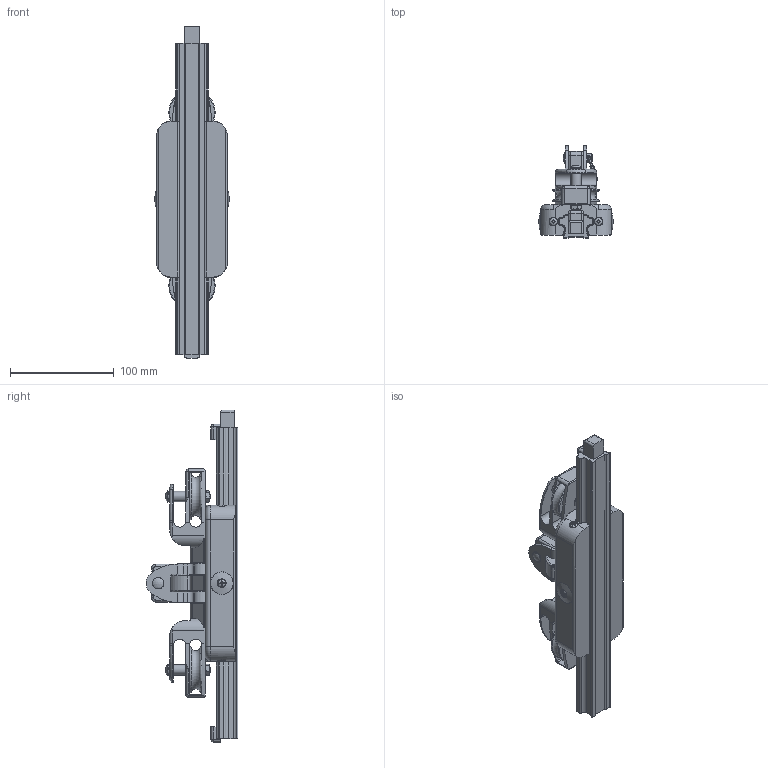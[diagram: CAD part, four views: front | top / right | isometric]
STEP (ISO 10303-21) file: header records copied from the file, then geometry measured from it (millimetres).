
FILE_DESCRIPTION(/* description */ (''),/* implementation_level */ '2;1');
FILE_NAME(/* name */ 'D:\Utenti\lucade\Desktop\4153.stp',/* time_stamp */ '2020-08-17T10:48:06+02:00',/* author */ ('lucade'),/* organization */ (''),/* preprocessor_version */ 'ST-DEVELOPER v18.1',/* originating_system */ 'Autodesk Inventor 2021',/* authorisation */ '');
FILE_SCHEMA (('AUTOMOTIVE_DESIGN { 1 0 10303 214 3 1 1 }','TECHNICAL_DATA_PACKAGING'));
Length unit declared in the file: millimetre
Products named in the file (1): 20072204
Bounding box: 71.95 x 88.45 x 319.8 mm (x, y, z)
Volume: 526382.3 mm3; surface area: 109526.3 mm2
Topology: 3 solids, 8 shells, 980 faces, 2662 edges, 1691 vertices
Faces by surface type: plane 411, cylinder 347, torus 85, cone 64, bspline 54, sphere 19
Full cylindrical faces by diameter (mm): 3.5 x2, 3.6 x2, 5 x4, 6 x2, 6.8 x2, 8 x2, 8.2 x5, 8.4 x4, 8.5 x6, 10 x6, 10.5 x12, 11.7 x6, 17 x4, 28 x2
Entity records: 33751 total; most frequent: CARTESIAN_POINT 9028, ORIENTED_EDGE 5304, DIRECTION 5290, EDGE_CURVE 2652, AXIS2_PLACEMENT_3D 2090, VERTEX_POINT 1691, LINE 1110, VECTOR 1110
